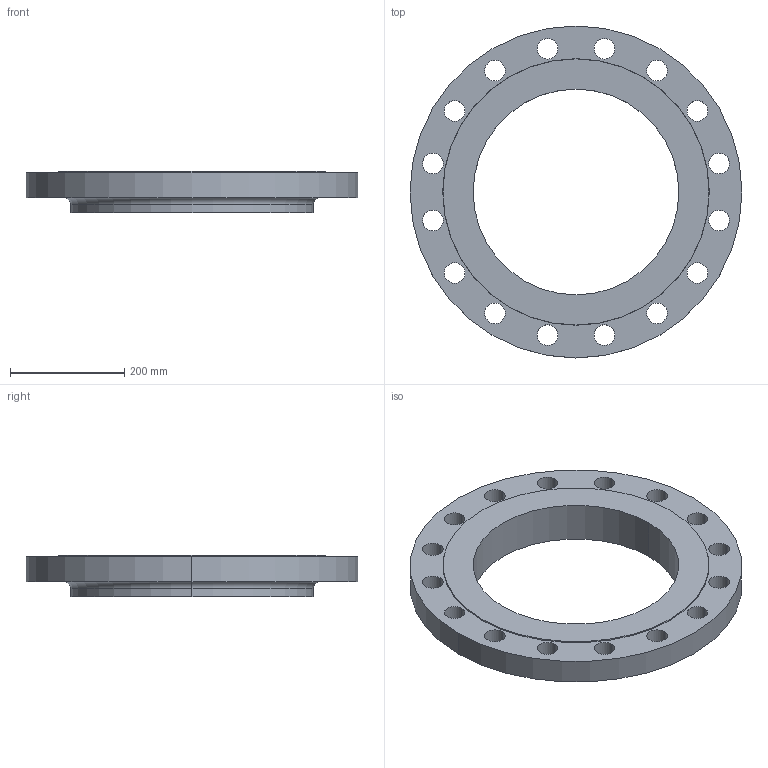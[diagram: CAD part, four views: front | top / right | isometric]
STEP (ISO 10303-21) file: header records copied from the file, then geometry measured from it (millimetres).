
FILE_DESCRIPTION (( 'STEP AP214' ), '1' );
FILE_NAME ('PN40 DN350 Type 12 - Type B Face.STEP', '2019-01-05T21:51:42', ( '' ), ( '' ), 'SwSTEP 2.0', 'SolidWorks 2019', '' );
FILE_SCHEMA (( 'AUTOMOTIVE_DESIGN' ));
Length unit declared in the file: millimetre
Products named in the file (1): PN40 DN350 Type 12 - Type B Face
Bounding box: 580 x 580 x 72 mm (x, y, z)
Volume: 7653134.8 mm3; surface area: 564234.5 mm2
Topology: 1 solids, 1 shells, 46 faces, 124 edges, 82 vertices
Faces by surface type: cylinder 38, plane 4, torus 2, cone 2
Entity records: 1598 total; most frequent: DIRECTION 302, CARTESIAN_POINT 253, ORIENTED_EDGE 248, AXIS2_PLACEMENT_3D 131, EDGE_CURVE 124, CIRCLE 84, VERTEX_POINT 82, EDGE_LOOP 82
